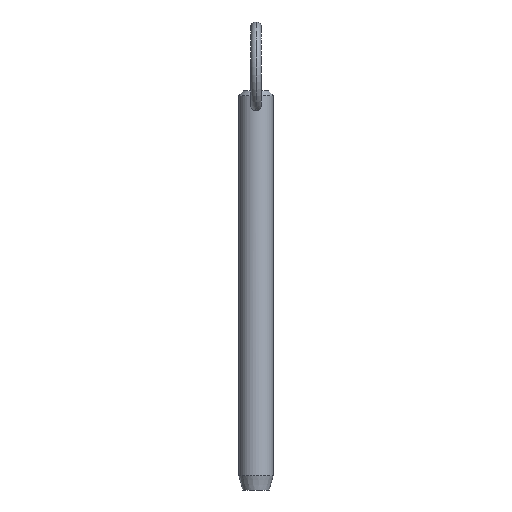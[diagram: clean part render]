
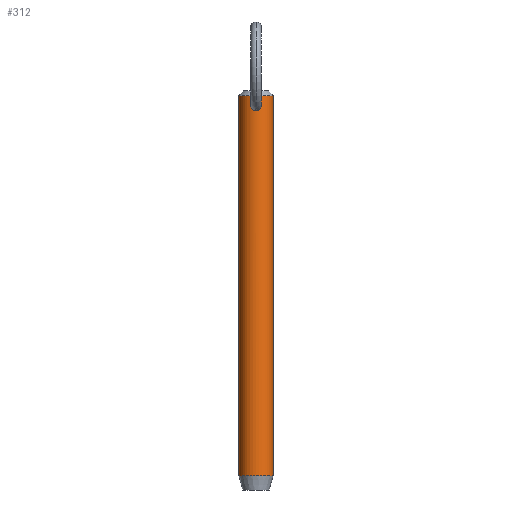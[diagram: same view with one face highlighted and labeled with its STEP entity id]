
A CAD part, front view. The second image highlights one B-rep face of the part: STEP entity #312.
In plain terms, the highlighted cylindrical face has radius 4.76 mm (diameter 9.52 mm), a partial arc.
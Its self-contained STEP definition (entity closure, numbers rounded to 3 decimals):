
#1 = CARTESIAN_POINT ( 'NONE',  ( 0., -4.76, 92.326 ) ) ;
#13 = CARTESIAN_POINT ( 'NONE',  ( -1.039, -4.646, 92.726 ) ) ;
#15 = ORIENTED_EDGE ( 'NONE', *, *, #200, .T. ) ;
#19 = CARTESIAN_POINT ( 'NONE',  ( -0.961, -4.663, 92.657 ) ) ;
#29 = CARTESIAN_POINT ( 'NONE',  ( 0., -4.76, 92.326 ) ) ;
#33 = CARTESIAN_POINT ( 'NONE',  ( 0.797, -4.697, 92.529 ) ) ;
#39 = CARTESIAN_POINT ( 'NONE',  ( 4.76, 0., 96.45 ) ) ;
#43 = FACE_BOUND ( 'NONE', #96, .T. ) ;
#49 = VERTEX_POINT ( 'NONE', #385 ) ;
#50 = CARTESIAN_POINT ( 'NONE',  ( -0.208, -4.757, 95.634 ) ) ;
#59 = CARTESIAN_POINT ( 'NONE',  ( 0.209, -4.756, 95.634 ) ) ;
#60 = CARTESIAN_POINT ( 'NONE',  ( 0.506, -4.734, 95.537 ) ) ;
#62 = CARTESIAN_POINT ( 'NONE',  ( 1.434, -4.539, 94.354 ) ) ;
#63 = CARTESIAN_POINT ( 'NONE',  ( 1.293, -4.582, 94.742 ) ) ;
#65 = DIRECTION ( 'NONE',  ( 1., 0., 0. ) ) ;
#67 = ORIENTED_EDGE ( 'NONE', *, *, #295, .T. ) ;
#72 = ORIENTED_EDGE ( 'NONE', *, *, #217, .F. ) ;
#84 = CARTESIAN_POINT ( 'NONE',  ( -0.409, -4.743, 95.578 ) ) ;
#85 = EDGE_CURVE ( 'NONE', #305, #49, #406, .T. ) ;
#86 = CARTESIAN_POINT ( 'NONE',  ( -0.504, -4.734, 95.538 ) ) ;
#90 = VERTEX_POINT ( 'NONE', #340 ) ;
#96 = EDGE_LOOP ( 'NONE', ( #67, #329 ) ) ;
#98 = CARTESIAN_POINT ( 'NONE',  ( 4.76, 0., 91.4 ) ) ;
#101 = CARTESIAN_POINT ( 'NONE',  ( 1.503, -4.517, 93.84 ) ) ;
#104 = CARTESIAN_POINT ( 'NONE',  ( 1.178, -4.613, 92.876 ) ) ;
#106 = CARTESIAN_POINT ( 'NONE',  ( 0.409, -4.743, 95.578 ) ) ;
#109 = FACE_OUTER_BOUND ( 'NONE', #225, .T. ) ;
#127 = CARTESIAN_POINT ( 'NONE',  ( -0.793, -4.694, 92.539 ) ) ;
#141 = CARTESIAN_POINT ( 'NONE',  ( 1.45, -4.534, 93.428 ) ) ;
#142 = CARTESIAN_POINT ( 'NONE',  ( 0.925, -4.67, 95.239 ) ) ;
#144 = VECTOR ( 'NONE', #432, 1000. ) ;
#145 = CARTESIAN_POINT ( 'NONE',  ( 1.344, -4.567, 93.139 ) ) ;
#147 = CARTESIAN_POINT ( 'NONE',  ( 1.473, -4.526, 93.531 ) ) ;
#152 = AXIS2_PLACEMENT_3D ( 'NONE', #323, #281, #279 ) ;
#153 = DIRECTION ( 'NONE',  ( -1., 0., 0. ) ) ;
#163 = CARTESIAN_POINT ( 'NONE',  ( -0.777, -4.7, 95.385 ) ) ;
#185 = CARTESIAN_POINT ( 'NONE',  ( 0.997, -4.655, 95.164 ) ) ;
#187 = CARTESIAN_POINT ( 'NONE',  ( 0.687, -4.711, 95.435 ) ) ;
#190 = LINE ( 'NONE', #344, #232 ) ;
#200 = EDGE_CURVE ( 'NONE', #322, #379, #190, .T. ) ;
#208 = CARTESIAN_POINT ( 'NONE',  ( -0.416, -4.746, 92.367 ) ) ;
#210 = CARTESIAN_POINT ( 'NONE',  ( -0.932, -4.67, 95.245 ) ) ;
#211 = ORIENTED_EDGE ( 'NONE', *, *, #373, .T. ) ;
#212 = CARTESIAN_POINT ( 'NONE',  ( -0.703, -4.709, 92.489 ) ) ;
#217 = EDGE_CURVE ( 'NONE', #429, #90, #388, .T. ) ;
#225 = EDGE_LOOP ( 'NONE', ( #72, #211, #15, #473 ) ) ;
#227 = CARTESIAN_POINT ( 'NONE',  ( 0.512, -4.733, 92.408 ) ) ;
#230 = CARTESIAN_POINT ( 'NONE',  ( 1.19, -4.611, 94.924 ) ) ;
#231 = CARTESIAN_POINT ( 'NONE',  ( -4.76, 0., 96.45 ) ) ;
#232 = VECTOR ( 'NONE', #474, 1000. ) ;
#257 = CARTESIAN_POINT ( 'NONE',  ( 0., -4.76, 92.326 ) ) ;
#267 = CARTESIAN_POINT ( 'NONE',  ( 0.208, -4.757, 92.336 ) ) ;
#273 = CARTESIAN_POINT ( 'NONE',  ( 1.404, -4.548, 94.453 ) ) ;
#279 = DIRECTION ( 'NONE',  ( -1., 0., 0. ) ) ;
#281 = DIRECTION ( 'NONE',  ( 0., 0., -1. ) ) ;
#292 = CIRCLE ( 'NONE', #321, 4.76 ) ;
#294 = CARTESIAN_POINT ( 'NONE',  ( -0.103, -4.76, 95.648 ) ) ;
#295 = EDGE_CURVE ( 'NONE', #49, #305, #526, .T. ) ;
#298 = CARTESIAN_POINT ( 'NONE',  ( -0.21, -4.76, 92.326 ) ) ;
#305 = VERTEX_POINT ( 'NONE', #1 ) ;
#312 = ADVANCED_FACE ( 'NONE', ( #109, #43 ), #408, .T. ) ;
#313 = CARTESIAN_POINT ( 'NONE',  ( 0.77, -4.698, 95.375 ) ) ;
#314 = CARTESIAN_POINT ( 'NONE',  ( 0.411, -4.743, 92.377 ) ) ;
#318 = CARTESIAN_POINT ( 'NONE',  ( 0., 0., 96.45 ) ) ;
#319 = EDGE_CURVE ( 'NONE', #379, #90, #292, .T. ) ;
#320 = DIRECTION ( 'NONE',  ( 0., 0., -1. ) ) ;
#321 = AXIS2_PLACEMENT_3D ( 'NONE', #449, #361, #153 ) ;
#322 = VERTEX_POINT ( 'NONE', #231 ) ;
#323 = CARTESIAN_POINT ( 'NONE',  ( 0., 0., 91.4 ) ) ;
#325 = AXIS2_PLACEMENT_3D ( 'NONE', #318, #320, #65 ) ;
#329 = ORIENTED_EDGE ( 'NONE', *, *, #85, .T. ) ;
#335 = CARTESIAN_POINT ( 'NONE',  ( 0., -4.76, 95.648 ) ) ;
#340 = CARTESIAN_POINT ( 'NONE',  ( 4.76, 0., -8.7 ) ) ;
#344 = CARTESIAN_POINT ( 'NONE',  ( -4.76, 0., 91.4 ) ) ;
#358 = CARTESIAN_POINT ( 'NONE',  ( 1.478, -4.525, 94.152 ) ) ;
#360 = CARTESIAN_POINT ( 'NONE',  ( 1.492, -4.52, 94.048 ) ) ;
#361 = DIRECTION ( 'NONE',  ( 0., 0., 1. ) ) ;
#373 = EDGE_CURVE ( 'NONE', #429, #322, #468, .T. ) ;
#379 = VERTEX_POINT ( 'NONE', #489 ) ;
#381 = CARTESIAN_POINT ( 'NONE',  ( -1.353, -4.564, 93.135 ) ) ;
#384 = CARTESIAN_POINT ( 'NONE',  ( -1.292, -4.582, 94.745 ) ) ;
#385 = CARTESIAN_POINT ( 'NONE',  ( 0., -4.76, 95.648 ) ) ;
#388 = LINE ( 'NONE', #98, #144 ) ;
#404 = CARTESIAN_POINT ( 'NONE',  ( 1.499, -4.518, 93.737 ) ) ;
#406 = B_SPLINE_CURVE_WITH_KNOTS ( 'NONE', 3,
 ( #257, #298, #208, #212, #127, #19, #13, #463, #381, #502, #423, #507, #466, #384, #498, #210, #163, #86, #84, #50, #294, #335 ),
 .UNSPECIFIED., .F., .F.,
 ( 4, 2, 2, 2, 2, 2, 2, 2, 2, 2, 4 ),
 ( 0.009, 0.01, 0.01, 0.011, 0.011, 0.012, 0.012, 0.013, 0.014, 0.014, 0.014 ),
 .UNSPECIFIED. ) ;
#408 = CYLINDRICAL_SURFACE ( 'NONE', #152, 4.76 ) ;
#423 = CARTESIAN_POINT ( 'NONE',  ( -1.508, -4.515, 93.737 ) ) ;
#429 = VERTEX_POINT ( 'NONE', #39 ) ;
#432 = DIRECTION ( 'NONE',  ( 0., 0., -1. ) ) ;
#443 = CARTESIAN_POINT ( 'NONE',  ( 0., -4.76, 95.648 ) ) ;
#447 = CARTESIAN_POINT ( 'NONE',  ( 0.105, -4.76, 92.326 ) ) ;
#449 = CARTESIAN_POINT ( 'NONE',  ( 0., 0., -8.7 ) ) ;
#463 = CARTESIAN_POINT ( 'NONE',  ( -1.247, -4.596, 92.952 ) ) ;
#466 = CARTESIAN_POINT ( 'NONE',  ( -1.441, -4.537, 94.357 ) ) ;
#468 = CIRCLE ( 'NONE', #325, 4.76 ) ;
#473 = ORIENTED_EDGE ( 'NONE', *, *, #319, .T. ) ;
#474 = DIRECTION ( 'NONE',  ( 0., 0., -1. ) ) ;
#476 = CARTESIAN_POINT ( 'NONE',  ( 1.24, -4.596, 92.96 ) ) ;
#477 = CARTESIAN_POINT ( 'NONE',  ( 1.385, -4.554, 93.232 ) ) ;
#482 = CARTESIAN_POINT ( 'NONE',  ( 0.104, -4.76, 95.648 ) ) ;
#489 = CARTESIAN_POINT ( 'NONE',  ( -4.76, 0., -8.7 ) ) ;
#498 = CARTESIAN_POINT ( 'NONE',  ( -1.19, -4.611, 94.924 ) ) ;
#502 = CARTESIAN_POINT ( 'NONE',  ( -1.483, -4.524, 93.526 ) ) ;
#507 = CARTESIAN_POINT ( 'NONE',  ( -1.487, -4.522, 94.153 ) ) ;
#521 = CARTESIAN_POINT ( 'NONE',  ( 0.97, -4.662, 92.65 ) ) ;
#526 = B_SPLINE_CURVE_WITH_KNOTS ( 'NONE', 3,
 ( #443, #482, #59, #106, #60, #187, #313, #142, #185, #230, #63, #273, #62, #358, #360, #101, #404, #147, #141, #477, #145, #476, #104, #521, #33, #227, #314, #267, #447, #29 ),
 .UNSPECIFIED., .F., .F.,
 ( 4, 2, 2, 2, 2, 2, 2, 2, 2, 2, 2, 2, 2, 2, 4 ),
 ( 0.004, 0.005, 0.005, 0.005, 0.006, 0.006, 0.007, 0.007, 0.007, 0.007, 0.008, 0.008, 0.009, 0.009, 0.009 ),
 .UNSPECIFIED. ) ;
